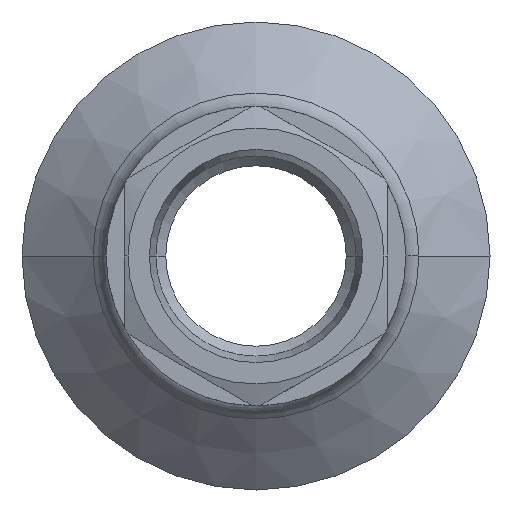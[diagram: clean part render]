
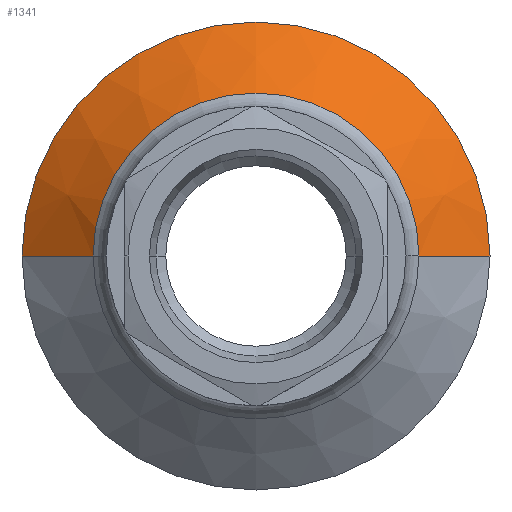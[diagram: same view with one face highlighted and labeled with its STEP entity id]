
A CAD part, left-side view. The second image highlights one B-rep face of the part: STEP entity #1341.
In plain terms, the highlighted conical face has half-angle 50 degrees and reference radius 27.143 mm.
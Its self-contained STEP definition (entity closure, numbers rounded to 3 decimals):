
#47=CARTESIAN_POINT('',(34.65,0.,0.));
#48=DIRECTION('',(1.,0.,0.));
#49=DIRECTION('',(0.,0.,1.));
#50=AXIS2_PLACEMENT_3D('',#47,#48,#49);
#56=CARTESIAN_POINT('',(26.499,0.,0.));
#57=DIRECTION('',(1.,0.,0.));
#58=DIRECTION('',(0.,1.,0.));
#59=AXIS2_PLACEMENT_3D('',#56,#57,#58);
#64=CARTESIAN_POINT('',(34.65,0.,0.));
#65=DIRECTION('',(1.,0.,0.));
#66=DIRECTION('',(0.,1.,0.));
#67=AXIS2_PLACEMENT_3D('',#64,#65,#66);
#148=DIRECTION('',(-0.643,-0.766,0.));
#149=VECTOR('',#148,12.681);
#150=CARTESIAN_POINT('',(34.65,32.,0.));
#151=LINE('',#150,#149);
#163=DIRECTION('',(-0.643,0.766,0.));
#164=VECTOR('',#163,12.681);
#165=CARTESIAN_POINT('',(34.65,-32.,0.));
#166=LINE('',#165,#164);
#1162=CARTESIAN_POINT('',(26.499,-22.286,0.));
#1163=CARTESIAN_POINT('',(26.499,22.286,0.));
#1164=VERTEX_POINT('',#1162);
#1165=VERTEX_POINT('',#1163);
#1244=CARTESIAN_POINT('',(34.65,0.,32.));
#1245=CARTESIAN_POINT('',(34.65,-32.,0.));
#1246=VERTEX_POINT('',#1244);
#1247=VERTEX_POINT('',#1245);
#1248=CARTESIAN_POINT('',(34.65,32.,0.));
#1249=VERTEX_POINT('',#1248);
#1324=CARTESIAN_POINT('',(30.574,0.,0.));
#1325=DIRECTION('',(1.,0.,0.));
#1326=DIRECTION('',(0.,-1.,0.));
#1327=AXIS2_PLACEMENT_3D('',#1324,#1325,#1326);
#1328=CONICAL_SURFACE('',#1327,27.143,50.);
#1330=ORIENTED_EDGE('',*,*,#1329,.T.);
#1332=ORIENTED_EDGE('',*,*,#1331,.T.);
#1334=ORIENTED_EDGE('',*,*,#1333,.F.);
#1336=ORIENTED_EDGE('',*,*,#1335,.F.);
#1338=ORIENTED_EDGE('',*,*,#1337,.T.);
#1339=EDGE_LOOP('',(#1330,#1332,#1334,#1336,#1338));
#1340=FACE_OUTER_BOUND('',#1339,.F.);
#51=CIRCLE('',#50,32.);
#60=CIRCLE('',#59,22.286);
#68=CIRCLE('',#67,32.);
#1329=EDGE_CURVE('',#1246,#1247,#51,.T.);
#1331=EDGE_CURVE('',#1247,#1164,#166,.T.);
#1333=EDGE_CURVE('',#1165,#1164,#60,.T.);
#1335=EDGE_CURVE('',#1249,#1165,#151,.T.);
#1337=EDGE_CURVE('',#1249,#1246,#68,.T.);
#1341=ADVANCED_FACE('',(#1340),#1328,.T.);
